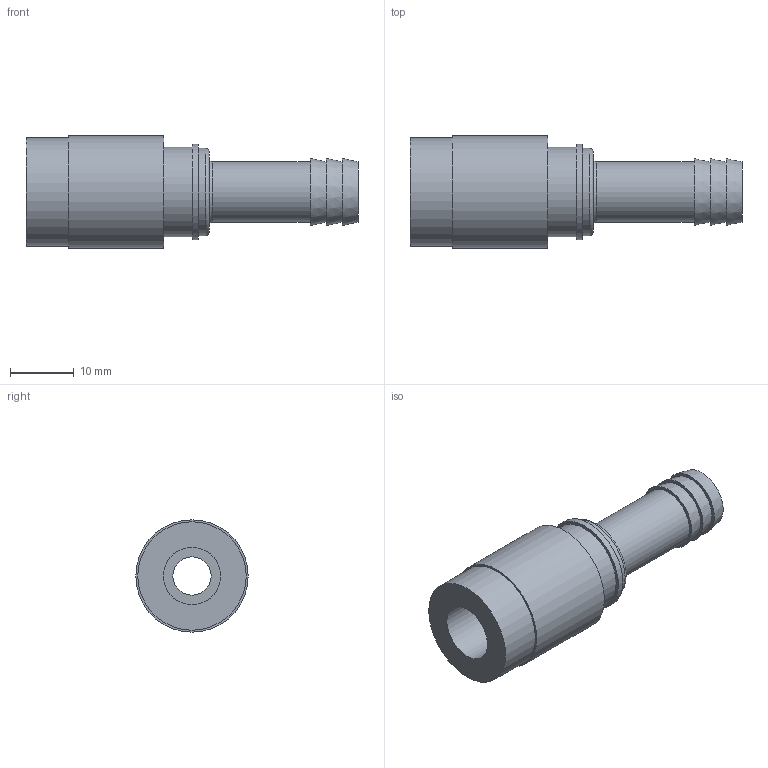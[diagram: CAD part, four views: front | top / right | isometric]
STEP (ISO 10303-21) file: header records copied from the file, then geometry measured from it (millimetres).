
FILE_DESCRIPTION(/* description */ ('STEP AP214'),/* implementation_level */ '2;1');
FILE_NAME(/* name */ 'SK109',/* time_stamp */ '2024-12-19T09:35:15+01:00',/* author */ ('License CC BY-ND 4.0'),/* organization */ ('CADENAS'),/* preprocessor_version */ 'ST-DEVELOPER v19.3',/* originating_system */ 'PARTsolutions',/* authorisation */ ' ');
FILE_SCHEMA (('AUTOMOTIVE_DESIGN {1 0 10303 214 3 1 1}'));
Length unit declared in the file: millimetre
Products named in the file (1): SK109
Bounding box: 52 x 17.6 x 17.6 mm (x, y, z)
Volume: 5588 mm3; surface area: 3929.4 mm2
Topology: 1 solids, 1 shells, 24 faces, 37 edges, 24 vertices
Faces by surface type: plane 11, cylinder 8, cone 3, torus 2
Full cylindrical faces by diameter (mm): 6 x1, 9 x1, 9.45 x1, 13.65 x1, 14 x1, 15 x1, 17 x1, 17.6 x1
Entity records: 518 total; most frequent: DIRECTION 98, CARTESIAN_POINT 73, AXIS2_PLACEMENT_3D 49, ORIENTED_EDGE 48, EDGE_LOOP 48, FACE_BOUND 48, EDGE_CURVE 24, VERTEX_POINT 24
